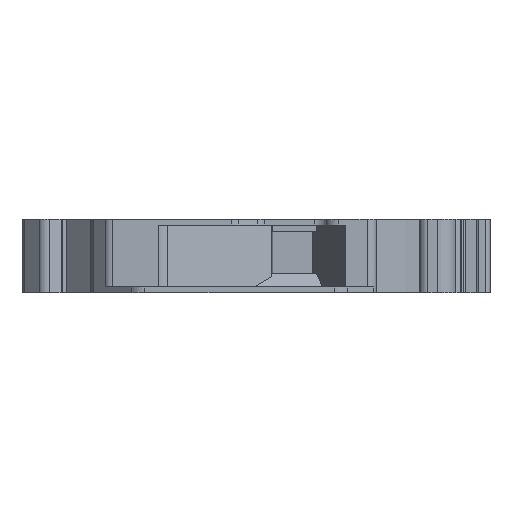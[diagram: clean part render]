
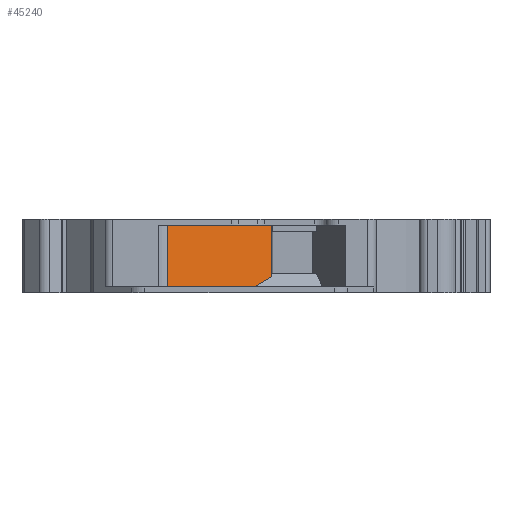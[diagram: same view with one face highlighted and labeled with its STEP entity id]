
A CAD part, left-side view. The second image highlights one B-rep face of the part: STEP entity #45240.
In plain terms, the highlighted planar face has unit normal (-0.866, -0.5, 0).
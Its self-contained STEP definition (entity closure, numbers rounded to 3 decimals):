
#44770=CARTESIAN_POINT('',(-39.407,14.25,
72.15));
#44780=DIRECTION('',(-0.866,-0.5,
0.));
#44790=DIRECTION('',(0.5,-0.866,
0.));
#44800=AXIS2_PLACEMENT_3D('',#44770,#44780,#44790);
#44810=PLANE('',#44800);
#44820=CARTESIAN_POINT('',(178.609,-363.366,
77.5));
#44830=DIRECTION('',(0.5,-0.866,
0.));
#44840=VECTOR('',#44830,1.);
#44850=LINE('',#44820,#44840);
#44860=CARTESIAN_POINT('',(-46.482,26.504,
77.5));
#44870=VERTEX_POINT('',#44860);
#44880=CARTESIAN_POINT('',(-39.803,14.935,
77.5));
#44890=VERTEX_POINT('',#44880);
#44900=EDGE_CURVE('',#44870,#44890,#44850,.T.);
#44910=ORIENTED_EDGE('',*,*,#44900,.F.);
#44920=CARTESIAN_POINT('',(-39.803,14.935,78.15));
#44930=DIRECTION('',(0.,0.,1.));
#44940=VECTOR('',#44930,1.);
#44950=LINE('',#44920,#44940);
#44960=CARTESIAN_POINT('',(-39.803,14.935,
71.784));
#44970=VERTEX_POINT('',#44960);
#44980=EDGE_CURVE('',#44970,#44890,#44950,.T.);
#44990=ORIENTED_EDGE('',*,*,#44980,.T.);
#45000=CARTESIAN_POINT('',(178.609,-363.366,
290.196));
#45010=DIRECTION('',(0.447,-0.775,
0.447));
#45020=VECTOR('',#45010,1.);
#45030=LINE('',#45000,#45020);
#45040=CARTESIAN_POINT('',(-40.937,16.899,
70.65));
#45050=VERTEX_POINT('',#45040);
#45060=EDGE_CURVE('',#45050,#44970,#45030,.T.);
#45070=ORIENTED_EDGE('',*,*,#45060,.T.);
#45080=CARTESIAN_POINT('',(180.284,-366.266,
70.65));
#45090=DIRECTION('',(0.5,-0.866,
0.));
#45100=VECTOR('',#45090,1.);
#45110=LINE('',#45080,#45100);
#45120=CARTESIAN_POINT('',(-46.482,26.504,
70.65));
#45130=VERTEX_POINT('',#45120);
#45140=EDGE_CURVE('',#45130,#45050,#45110,.T.);
#45150=ORIENTED_EDGE('',*,*,#45140,.T.);
#45160=CARTESIAN_POINT('',(-46.482,26.504,
78.15));
#45170=DIRECTION('',(0.,0.,-1.));
#45180=VECTOR('',#45170,1.);
#45190=LINE('',#45160,#45180);
#45200=EDGE_CURVE('',#44870,#45130,#45190,.T.);
#45210=ORIENTED_EDGE('',*,*,#45200,.T.);
#45220=EDGE_LOOP('',(#45210,#45150,#45070,#44990,#44910));
#45230=FACE_OUTER_BOUND('',#45220,.T.);
#45240=ADVANCED_FACE('',(#45230),#44810,.T.);
